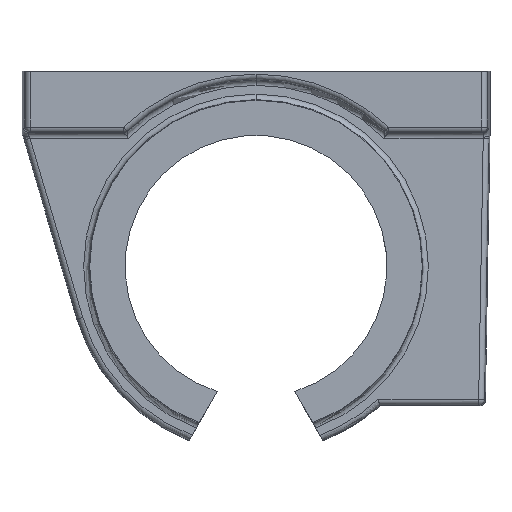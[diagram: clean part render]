
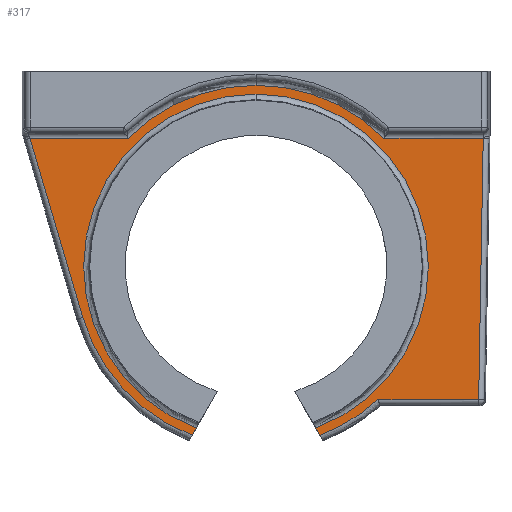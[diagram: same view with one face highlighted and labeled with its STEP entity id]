
A CAD part, front view. The second image highlights one B-rep face of the part: STEP entity #317.
In plain terms, the highlighted planar face has unit normal (0, -1, 0).
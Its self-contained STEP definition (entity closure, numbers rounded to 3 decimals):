
#16 = EDGE_CURVE ( 'NONE', #237, #187, #1093, .T. ) ;
#27 = CIRCLE ( 'NONE', #1594, 32.395 ) ;
#35 = ORIENTED_EDGE ( 'NONE', *, *, #491, .T. ) ;
#48 = ORIENTED_EDGE ( 'NONE', *, *, #3748, .T. ) ;
#57 = LINE ( 'NONE', #405, #1100 ) ;
#68 = CARTESIAN_POINT ( 'NONE',  ( -31.073, -13., -40.66 ) ) ;
#70 = CARTESIAN_POINT ( 'NONE',  ( -22.962, -13., -8.5 ) ) ;
#93 = CARTESIAN_POINT ( 'NONE',  ( 0., -13., -31.5 ) ) ;
#187 = VERTEX_POINT ( 'NONE', #1973 ) ;
#219 = VECTOR ( 'NONE', #1860, 1000. ) ;
#237 = VERTEX_POINT ( 'NONE', #327 ) ;
#250 = CARTESIAN_POINT ( 'NONE',  ( -4.508, -13., -34.103 ) ) ;
#252 = DIRECTION ( 'NONE',  ( 0., -1., 0. ) ) ;
#279 = CARTESIAN_POINT ( 'NONE',  ( 0., -13., -31.5 ) ) ;
#317 = ADVANCED_FACE ( 'NONE', ( #1273 ), #657, .F. ) ;
#327 = CARTESIAN_POINT ( 'NONE',  ( 40.773, -13., -8.5 ) ) ;
#370 = ORIENTED_EDGE ( 'NONE', *, *, #412, .T. ) ;
#397 = ORIENTED_EDGE ( 'NONE', *, *, #3979, .T. ) ;
#405 = CARTESIAN_POINT ( 'NONE',  ( 4.508, -13., -34.103 ) ) ;
#412 = EDGE_CURVE ( 'NONE', #1065, #3590, #57, .T. ) ;
#444 = LINE ( 'NONE', #1692, #497 ) ;
#456 = VERTEX_POINT ( 'NONE', #3744 ) ;
#491 = EDGE_CURVE ( 'NONE', #2611, #1689, #1651, .T. ) ;
#496 = DIRECTION ( 'NONE',  ( 0., 0., 1. ) ) ;
#497 = VECTOR ( 'NONE', #2955, 1000. ) ;
#521 = DIRECTION ( 'NONE',  ( 0., -1., 0. ) ) ;
#597 = CARTESIAN_POINT ( 'NONE',  ( -41.763, -13., -8.5 ) ) ;
#625 = VERTEX_POINT ( 'NONE', #2086 ) ;
#652 = CARTESIAN_POINT ( 'NONE',  ( -10.736, -13., -60.507 ) ) ;
#657 = PLANE ( 'NONE',  #2788 ) ;
#726 = CARTESIAN_POINT ( 'NONE',  ( 40.781, -13., -8.054 ) ) ;
#741 = EDGE_LOOP ( 'NONE', ( #397, #2056, #1171, #1660, #3854, #3295, #1117, #48, #35, #3041, #1786, #3517, #370 ) ) ;
#828 = CARTESIAN_POINT ( 'NONE',  ( 0., -13., -31.5 ) ) ;
#939 = DIRECTION ( 'NONE',  ( 0., 1., 0. ) ) ;
#964 = VERTEX_POINT ( 'NONE', #1423 ) ;
#990 = DIRECTION ( 'NONE',  ( 0.017, 0., 1. ) ) ;
#1036 = AXIS2_PLACEMENT_3D ( 'NONE', #1769, #1147, #496 ) ;
#1065 = VERTEX_POINT ( 'NONE', #2852 ) ;
#1093 = LINE ( 'NONE', #2388, #2181 ) ;
#1100 = VECTOR ( 'NONE', #1384, 1000. ) ;
#1106 = CIRCLE ( 'NONE', #1036, 32.395 ) ;
#1117 = ORIENTED_EDGE ( 'NONE', *, *, #16, .T. ) ;
#1147 = DIRECTION ( 'NONE',  ( 0., -1., 0. ) ) ;
#1171 = ORIENTED_EDGE ( 'NONE', *, *, #2536, .T. ) ;
#1217 = CARTESIAN_POINT ( 'NONE',  ( -31.073, -13., -40.66 ) ) ;
#1242 = AXIS2_PLACEMENT_3D ( 'NONE', #279, #939, #3206 ) ;
#1250 = AXIS2_PLACEMENT_3D ( 'NONE', #3053, #521, #2103 ) ;
#1273 = FACE_OUTER_BOUND ( 'NONE', #741, .T. ) ;
#1285 = LINE ( 'NONE', #250, #2190 ) ;
#1324 = CARTESIAN_POINT ( 'NONE',  ( 0., -13., -31.5 ) ) ;
#1339 = CARTESIAN_POINT ( 'NONE',  ( 0., -13., -31.5 ) ) ;
#1383 = DIRECTION ( 'NONE',  ( 0., 1., 0. ) ) ;
#1384 = DIRECTION ( 'NONE',  ( 0.5, 0., 0.866 ) ) ;
#1423 = CARTESIAN_POINT ( 'NONE',  ( -40.553, -13., -8.5 ) ) ;
#1545 = DIRECTION ( 'NONE',  ( 0.5, 0., -0.866 ) ) ;
#1594 = AXIS2_PLACEMENT_3D ( 'NONE', #93, #4032, #1795 ) ;
#1617 = CARTESIAN_POINT ( 'NONE',  ( 0., -13., 1. ) ) ;
#1651 = CIRCLE ( 'NONE', #2720, 32.5 ) ;
#1660 = ORIENTED_EDGE ( 'NONE', *, *, #3101, .T. ) ;
#1686 = EDGE_CURVE ( 'NONE', #1744, #4018, #444, .T. ) ;
#1689 = VERTEX_POINT ( 'NONE', #70 ) ;
#1692 = CARTESIAN_POINT ( 'NONE',  ( 40.92, -13., -55.395 ) ) ;
#1744 = VERTEX_POINT ( 'NONE', #3651 ) ;
#1769 = CARTESIAN_POINT ( 'NONE',  ( 0., -13., -31.5 ) ) ;
#1786 = ORIENTED_EDGE ( 'NONE', *, *, #1919, .T. ) ;
#1795 = DIRECTION ( 'NONE',  ( 0., 0., 1. ) ) ;
#1860 = DIRECTION ( 'NONE',  ( 0.283, 0., -0.959 ) ) ;
#1880 = DIRECTION ( 'NONE',  ( -1., 0., 0. ) ) ;
#1919 = EDGE_CURVE ( 'NONE', #964, #2942, #3822, .T. ) ;
#1940 = DIRECTION ( 'NONE',  ( 0., 1., 0. ) ) ;
#1973 = CARTESIAN_POINT ( 'NONE',  ( 22.962, -13., -8.5 ) ) ;
#2039 = EDGE_CURVE ( 'NONE', #1689, #964, #4120, .T. ) ;
#2052 = CIRCLE ( 'NONE', #1242, 30.93 ) ;
#2056 = ORIENTED_EDGE ( 'NONE', *, *, #2389, .T. ) ;
#2080 = CARTESIAN_POINT ( 'NONE',  ( 39.954, -13., -55.395 ) ) ;
#2086 = CARTESIAN_POINT ( 'NONE',  ( 11.479, -13., -61.793 ) ) ;
#2103 = DIRECTION ( 'NONE',  ( 0., 0., 1. ) ) ;
#2181 = VECTOR ( 'NONE', #2470, 1000. ) ;
#2190 = VECTOR ( 'NONE', #1545, 1000. ) ;
#2202 = CIRCLE ( 'NONE', #1250, 32.5 ) ;
#2275 = EDGE_CURVE ( 'NONE', #2942, #1065, #1106, .T. ) ;
#2388 = CARTESIAN_POINT ( 'NONE',  ( 23.372, -13., -8.5 ) ) ;
#2389 = EDGE_CURVE ( 'NONE', #456, #4128, #2052, .T. ) ;
#2393 = VECTOR ( 'NONE', #1880, 1000. ) ;
#2470 = DIRECTION ( 'NONE',  ( -1., 0., 0. ) ) ;
#2536 = EDGE_CURVE ( 'NONE', #4128, #625, #1285, .T. ) ;
#2611 = VERTEX_POINT ( 'NONE', #1617 ) ;
#2720 = AXIS2_PLACEMENT_3D ( 'NONE', #828, #252, #4042 ) ;
#2723 = VECTOR ( 'NONE', #990, 1000. ) ;
#2788 = AXIS2_PLACEMENT_3D ( 'NONE', #1324, #1940, #2905 ) ;
#2811 = CARTESIAN_POINT ( 'NONE',  ( 10.736, -13., -60.507 ) ) ;
#2852 = CARTESIAN_POINT ( 'NONE',  ( -11.479, -13., -61.793 ) ) ;
#2905 = DIRECTION ( 'NONE',  ( 0., 0., 1. ) ) ;
#2917 = EDGE_CURVE ( 'NONE', #4018, #237, #3608, .T. ) ;
#2942 = VERTEX_POINT ( 'NONE', #68 ) ;
#2955 = DIRECTION ( 'NONE',  ( 1., 0., 0. ) ) ;
#3041 = ORIENTED_EDGE ( 'NONE', *, *, #2039, .T. ) ;
#3053 = CARTESIAN_POINT ( 'NONE',  ( 0., -13., -31.5 ) ) ;
#3101 = EDGE_CURVE ( 'NONE', #625, #1744, #27, .T. ) ;
#3206 = DIRECTION ( 'NONE',  ( 0., 0., 1. ) ) ;
#3295 = ORIENTED_EDGE ( 'NONE', *, *, #2917, .T. ) ;
#3517 = ORIENTED_EDGE ( 'NONE', *, *, #2275, .T. ) ;
#3590 = VERTEX_POINT ( 'NONE', #652 ) ;
#3608 = LINE ( 'NONE', #726, #2723 ) ;
#3639 = DIRECTION ( 'NONE',  ( 0., 0., 1. ) ) ;
#3651 = CARTESIAN_POINT ( 'NONE',  ( 21.874, -13., -55.395 ) ) ;
#3744 = CARTESIAN_POINT ( 'NONE',  ( 0., -13., -0.57 ) ) ;
#3748 = EDGE_CURVE ( 'NONE', #187, #2611, #2202, .T. ) ;
#3818 = AXIS2_PLACEMENT_3D ( 'NONE', #1339, #1383, #3639 ) ;
#3822 = LINE ( 'NONE', #1217, #219 ) ;
#3854 = ORIENTED_EDGE ( 'NONE', *, *, #1686, .T. ) ;
#3979 = EDGE_CURVE ( 'NONE', #3590, #456, #4161, .T. ) ;
#4018 = VERTEX_POINT ( 'NONE', #2080 ) ;
#4032 = DIRECTION ( 'NONE',  ( 0., -1., 0. ) ) ;
#4042 = DIRECTION ( 'NONE',  ( 0., 0., 1. ) ) ;
#4120 = LINE ( 'NONE', #597, #2393 ) ;
#4128 = VERTEX_POINT ( 'NONE', #2811 ) ;
#4161 = CIRCLE ( 'NONE', #3818, 30.93 ) ;
